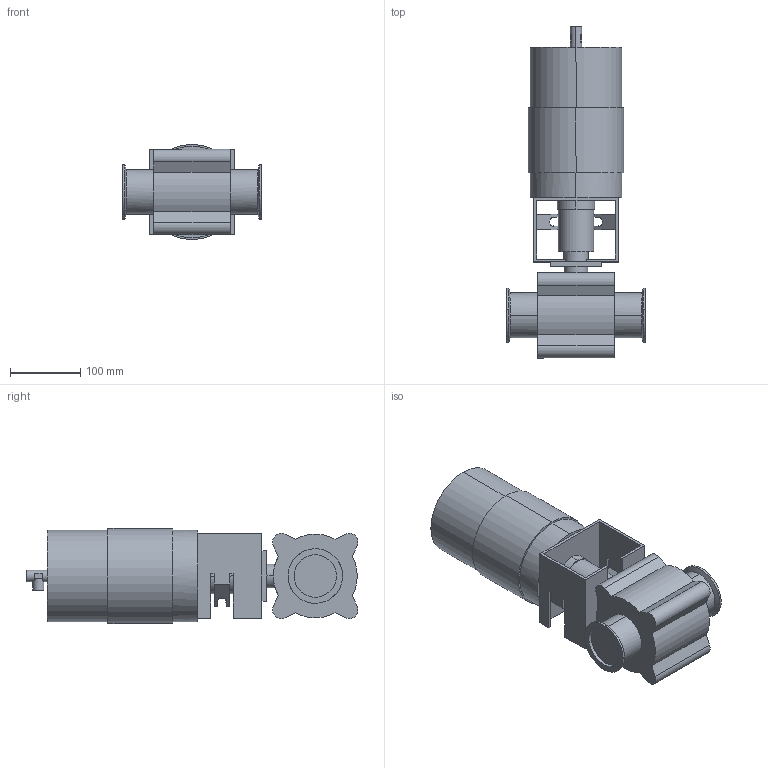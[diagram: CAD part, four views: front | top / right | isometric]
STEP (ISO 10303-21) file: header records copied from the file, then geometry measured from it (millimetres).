
FILE_DESCRIPTION(('Creo Elements/Direct Modeling STEP Export'),'2;1');
FILE_NAME('BLV1-2.5T-NC-12CL.stp','2019-05-10T 8:15:16',(''),(''),'Creo Elements/Direct Modeling STEP processor for AP214 (Solid Model)','Creo Elements/Direct Modeling 19.0F 14-Feb-2017 (C) Parametric Technology GmbH','');
FILE_SCHEMA(('AUTOMOTIVE_DESIGN { 1 0 10303 214 1 1 1 1 }'));
Length unit declared in the file: millimetre
Products named in the file (2): BLV1-2.5T-NC-12CL
Assembly tree (1 placements, depth 2):
  BLV1-2.5T-NC-12CL
    BLV1-2.5T-NC-12CL
Bounding box: 197 x 471.34 x 135 mm (x, y, z)
Volume: 5024774.8 mm3; surface area: 308531.7 mm2
Topology: 1 solids, 1 shells, 138 faces, 363 edges, 236 vertices
Faces by surface type: plane 92, cylinder 42, cone 4
Entity records: 3854 total; most frequent: ORIENTED_EDGE 726, CARTESIAN_POINT 683, DIRECTION 568, EDGE_CURVE 363, VERTEX_POINT 236, VECTOR 224, LINE 224, AXIS2_PLACEMENT_3D 172
